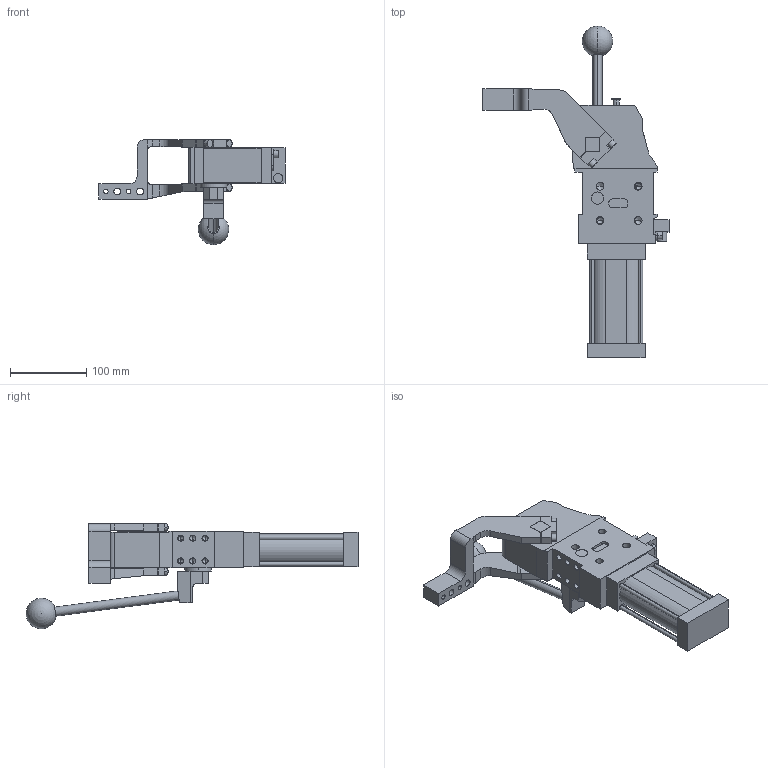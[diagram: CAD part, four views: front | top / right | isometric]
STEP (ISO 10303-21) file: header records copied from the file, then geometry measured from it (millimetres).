
FILE_DESCRIPTION (( 'STEP AP214' ), '1' );
FILE_NAME ('cplm50lbv3di1g_135.STEP', '2023-01-26T13:54:32', ( '' ), ( '' ), 'SwSTEP 2.0', 'SolidWorks 2022', '' );
FILE_SCHEMA (( 'AUTOMOTIVE_DESIGN' ));
Length unit declared in the file: millimetre
Products named in the file (5): blocchetto_VEP_0; meccanica_cplm_50; leva_dx_offset_45_cpl50; cplm50lbv3di1g_135; comando_manuale_cplm_50
Assembly tree (4 placements, depth 2):
  cplm50lbv3di1g_135
    meccanica_cplm_50
    blocchetto_VEP_0
    leva_dx_offset_45_cpl50
    comando_manuale_cplm_50
Bounding box: 244.5 x 436.23 x 138.5 mm (x, y, z)
Volume: 1483582.8 mm3; surface area: 184927.1 mm2
Topology: 4 solids, 4 shells, 433 faces, 1114 edges, 695 vertices
Faces by surface type: plane 214, cylinder 167, cone 50, sphere 2
Entity records: 14434 total; most frequent: CARTESIAN_POINT 2298, DIRECTION 2278, ORIENTED_EDGE 2126, EDGE_CURVE 1063, AXIS2_PLACEMENT_3D 790, LINE 698, VECTOR 698, VERTEX_POINT 692
